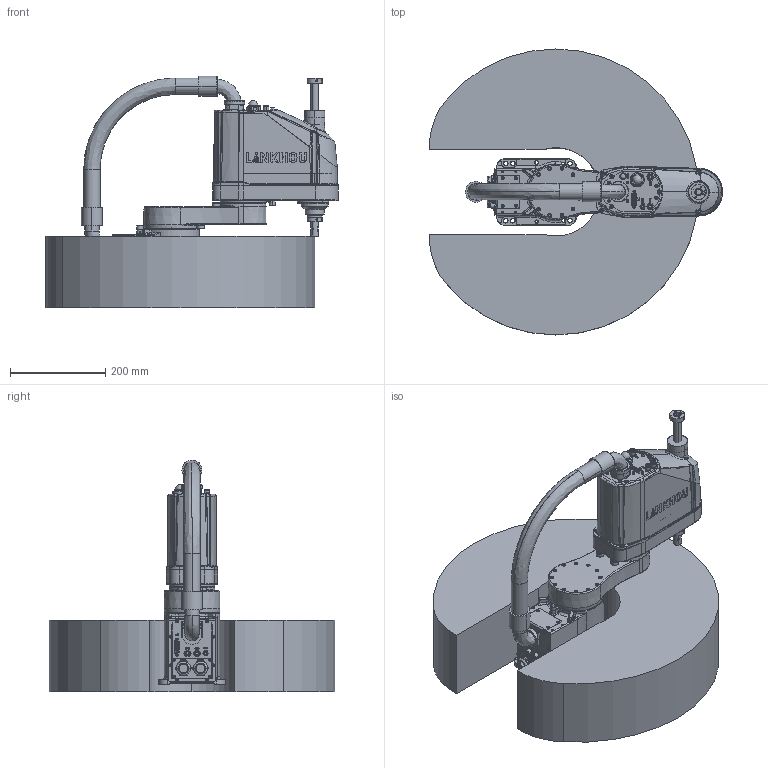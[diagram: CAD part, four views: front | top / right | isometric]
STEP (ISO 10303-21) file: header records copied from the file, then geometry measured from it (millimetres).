
FILE_DESCRIPTION (( 'STEP AP214' ), '1' );
FILE_NAME ('TM5A-R300湍堍雄毓峓衄logo2017.STEP', '2023-12-26T12:31:22', ( '' ), ( '' ), 'SwSTEP 2.0', 'SolidWorks 2017', '' );
FILE_SCHEMA (( 'AUTOMOTIVE_DESIGN' ));
Length unit declared in the file: millimetre
Products named in the file (8): 300本体线束^TM5A-R300带运动范围有logo2017; TM5A-R300湍堍雄毓峓衄logo2017; 本体线束接头^TM5A-R300带运动范围有logo2017; 复件 丝杆^TM5A-R300带运动范围有logo2017; 300运动范围^TM5A-R300带运动范围有logo2017; 300大臂^TM5A-R300带运动范围有logo2017; 底座^TM5A-R300带运动范围有logo2017; 小臂logo^TM5A-R300带运动范围有logo2017
Assembly tree (7 placements, depth 2):
  TM5A-R300湍堍雄毓峓衄logo2017
    底座^TM5A-R300带运动范围有logo2017
    300大臂^TM5A-R300带运动范围有logo2017
    小臂logo^TM5A-R300带运动范围有logo2017
    本体线束接头^TM5A-R300带运动范围有logo2017
    300本体线束^TM5A-R300带运动范围有logo2017
    复件 丝杆^TM5A-R300带运动范围有logo2017
    300运动范围^TM5A-R300带运动范围有logo2017
Bounding box: 614.77 x 600 x 485.7 mm (x, y, z)
Volume: 37508787.3 mm3; surface area: 1582705.1 mm2
Topology: 31 solids, 84 shells, 5260 faces, 13665 edges, 8822 vertices
Faces by surface type: plane 2246, bspline 1160, cylinder 1126, cone 724, torus 4
Entity records: 250349 total; most frequent: CARTESIAN_POINT 103801, ORIENTED_EDGE 27044, DIRECTION 20644, EDGE_CURVE 13522, VERTEX_POINT 8822, AXIS2_PLACEMENT_3D 7010, LINE 6624, VECTOR 6624
